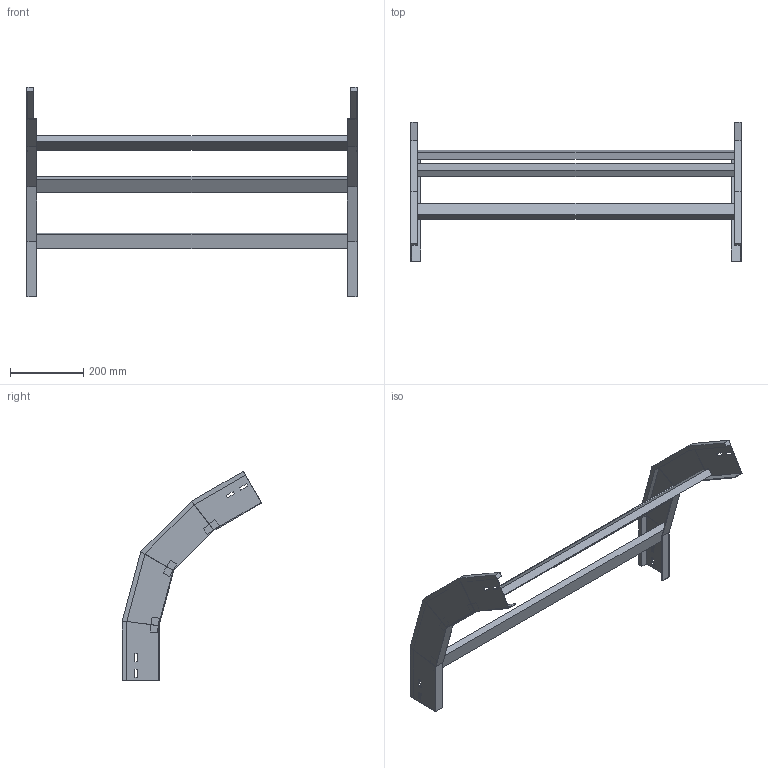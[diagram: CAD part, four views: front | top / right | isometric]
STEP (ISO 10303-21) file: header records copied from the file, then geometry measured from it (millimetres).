
FILE_DESCRIPTION (( 'STEP AP214' ), '1' );
FILE_NAME ('A2_41B3D900.step', '2025-02-21T14:56:57', ( '' ), ( '' ), 'SwSTEP 2.0', 'SolidWorks 2023', '' );
FILE_SCHEMA (( 'AUTOMOTIVE_DESIGN' ));
Length unit declared in the file: millimetre
Products named in the file (3): TRAVERSINO_900; LONGH.DISCESA_60°_H100_R300; A2_41B3D900
Assembly tree (5 placements, depth 2):
  A2_41B3D900
    LONGH.DISCESA_60°_H100_R300  x2
    TRAVERSINO_900  x3
Bounding box: 900 x 379.62 x 570.92 mm (x, y, z)
Volume: 2773764.7 mm3; surface area: 707433.5 mm2
Topology: 5 solids, 5 shells, 118 faces, 276 edges, 168 vertices
Faces by surface type: plane 118
Entity records: 1672 total; most frequent: CARTESIAN_POINT 276, ORIENTED_EDGE 264, DIRECTION 260, VECTOR 132, EDGE_CURVE 132, LINE 132, VERTEX_POINT 80, EDGE_LOOP 64
